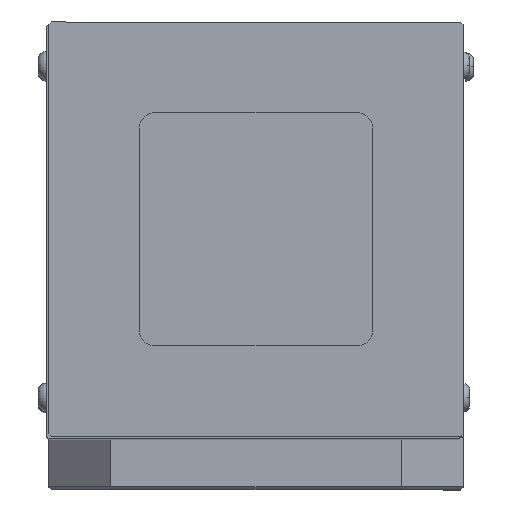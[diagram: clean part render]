
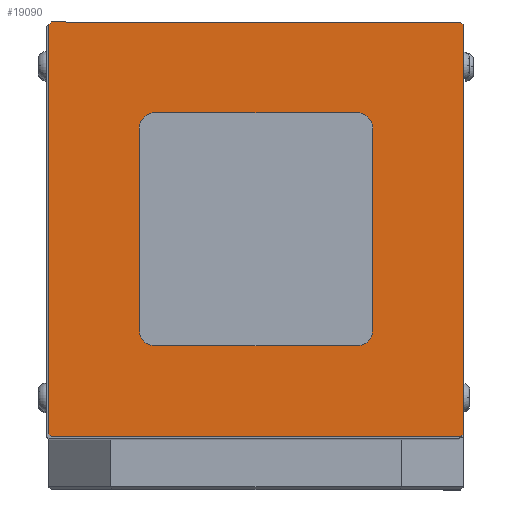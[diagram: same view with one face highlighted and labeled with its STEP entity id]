
A CAD part, top view. The second image highlights one B-rep face of the part: STEP entity #19090.
In plain terms, the highlighted planar face has unit normal (0, 0, 1).
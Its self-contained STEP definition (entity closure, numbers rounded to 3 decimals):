
#19022 = EDGE_CURVE ( 'NONE', #19106, #19023, #32805, .T. ) ;
#19023 = VERTEX_POINT ( 'NONE', #32801 ) ;
#19029 = EDGE_CURVE ( 'NONE', #19030, #19031, #32834, .T. ) ;
#19030 = VERTEX_POINT ( 'NONE', #32830 ) ;
#19031 = VERTEX_POINT ( 'NONE', #32829 ) ;
#19066 = ORIENTED_EDGE ( 'NONE', *, *, #19067, .T. ) ;
#19067 = EDGE_CURVE ( 'NONE', #19150, #19068, #32895, .T. ) ;
#19068 = VERTEX_POINT ( 'NONE', #32890 ) ;
#19069 = ORIENTED_EDGE ( 'NONE', *, *, #19070, .T. ) ;
#19070 = EDGE_CURVE ( 'NONE', #19068, #19071, #32889, .T. ) ;
#19071 = VERTEX_POINT ( 'NONE', #32885 ) ;
#19072 = ORIENTED_EDGE ( 'NONE', *, *, #19073, .T. ) ;
#19073 = EDGE_CURVE ( 'NONE', #19071, #19074, #32884, .T. ) ;
#19074 = VERTEX_POINT ( 'NONE', #32879 ) ;
#19075 = ORIENTED_EDGE ( 'NONE', *, *, #19076, .T. ) ;
#19076 = EDGE_CURVE ( 'NONE', #19074, #19135, #32877, .T. ) ;
#19082 = EDGE_CURVE ( 'NONE', #19083, #19084, #32909, .T. ) ;
#19083 = VERTEX_POINT ( 'NONE', #32964 ) ;
#19084 = VERTEX_POINT ( 'NONE', #32963 ) ;
#19090 = ADVANCED_FACE ( 'NONE', ( #32953, #32952 ), #32993, .T. ) ;
#19091 = EDGE_LOOP ( 'NONE', ( #19148, #19066, #19069, #19072, #19075, #19136, #19139, #19142 ) ) ;
#19092 = VERTEX_POINT ( 'NONE', #32988 ) ;
#19099 = EDGE_CURVE ( 'NONE', #19100, #19101, #33023, .T. ) ;
#19100 = VERTEX_POINT ( 'NONE', #33019 ) ;
#19101 = VERTEX_POINT ( 'NONE', #33018 ) ;
#19106 = VERTEX_POINT ( 'NONE', #33009 ) ;
#19123 = ORIENTED_EDGE ( 'NONE', *, *, #19082, .F. ) ;
#19124 = ORIENTED_EDGE ( 'NONE', *, *, #19125, .T. ) ;
#19125 = EDGE_CURVE ( 'NONE', #19083, #19101, #33029, .T. ) ;
#19126 = ORIENTED_EDGE ( 'NONE', *, *, #19099, .F. ) ;
#19127 = ORIENTED_EDGE ( 'NONE', *, *, #19128, .T. ) ;
#19128 = EDGE_CURVE ( 'NONE', #19100, #19031, #33078, .T. ) ;
#19129 = ORIENTED_EDGE ( 'NONE', *, *, #19029, .F. ) ;
#19130 = ORIENTED_EDGE ( 'NONE', *, *, #19131, .T. ) ;
#19131 = EDGE_CURVE ( 'NONE', #19030, #19023, #33073, .T. ) ;
#19135 = VERTEX_POINT ( 'NONE', #33108 ) ;
#19136 = ORIENTED_EDGE ( 'NONE', *, *, #19137, .T. ) ;
#19137 = EDGE_CURVE ( 'NONE', #19135, #19138, #33107, .T. ) ;
#19138 = VERTEX_POINT ( 'NONE', #33102 ) ;
#19139 = ORIENTED_EDGE ( 'NONE', *, *, #19140, .T. ) ;
#19140 = EDGE_CURVE ( 'NONE', #19138, #19141, #33101, .T. ) ;
#19141 = VERTEX_POINT ( 'NONE', #33097 ) ;
#19142 = ORIENTED_EDGE ( 'NONE', *, *, #19143, .T. ) ;
#19143 = EDGE_CURVE ( 'NONE', #19141, #19092, #33096, .T. ) ;
#19144 = EDGE_LOOP ( 'NONE', ( #19145, #19146, #19123, #19124, #19126, #19127, #19129, #19130 ) ) ;
#19145 = ORIENTED_EDGE ( 'NONE', *, *, #19022, .F. ) ;
#19146 = ORIENTED_EDGE ( 'NONE', *, *, #19147, .T. ) ;
#19147 = EDGE_CURVE ( 'NONE', #19106, #19084, #33091, .T. ) ;
#19148 = ORIENTED_EDGE ( 'NONE', *, *, #19149, .T. ) ;
#19149 = EDGE_CURVE ( 'NONE', #19092, #19150, #33087, .T. ) ;
#19150 = VERTEX_POINT ( 'NONE', #33083 ) ;
#32801 = CARTESIAN_POINT ( 'NONE',  ( -40.4, 39.1, 70. ) ) ;
#32802 = DIRECTION ( 'NONE',  ( 0., 1., 0. ) ) ;
#32803 = VECTOR ( 'NONE', #32802, 1000. ) ;
#32804 = CARTESIAN_POINT ( 'NONE',  ( -40.4, 39.6, 70. ) ) ;
#32805 = LINE ( 'NONE', #32804, #32803 ) ;
#32829 = CARTESIAN_POINT ( 'NONE',  ( 39.1, 39.6, 70. ) ) ;
#32830 = CARTESIAN_POINT ( 'NONE',  ( -39.9, 39.6, 70. ) ) ;
#32831 = DIRECTION ( 'NONE',  ( 1., 0., 0. ) ) ;
#32832 = VECTOR ( 'NONE', #32831, 1000. ) ;
#32833 = CARTESIAN_POINT ( 'NONE',  ( -40.4, 39.6, 70. ) ) ;
#32834 = LINE ( 'NONE', #32833, #32832 ) ;
#32874 = DIRECTION ( 'NONE',  ( -1., 0., 0. ) ) ;
#32875 = VECTOR ( 'NONE', #32874, 1000. ) ;
#32876 = CARTESIAN_POINT ( 'NONE',  ( 22.1, -22.9, 70. ) ) ;
#32877 = LINE ( 'NONE', #32876, #32875 ) ;
#32879 = CARTESIAN_POINT ( 'NONE',  ( 19.1, -22.9, 70. ) ) ;
#32880 = DIRECTION ( 'NONE',  ( 0., -1., 0. ) ) ;
#32881 = DIRECTION ( 'NONE',  ( 0., 0., -1. ) ) ;
#32882 = CARTESIAN_POINT ( 'NONE',  ( 19.1, -19.9, 70. ) ) ;
#32883 = AXIS2_PLACEMENT_3D ( 'NONE', #32882, #32881, #32880 ) ;
#32884 = CIRCLE ( 'NONE', #32883, 3. ) ;
#32885 = CARTESIAN_POINT ( 'NONE',  ( 22.1, -19.9, 70. ) ) ;
#32886 = DIRECTION ( 'NONE',  ( 0., -1., 0. ) ) ;
#32887 = VECTOR ( 'NONE', #32886, 1000. ) ;
#32888 = CARTESIAN_POINT ( 'NONE',  ( 22.1, -22.9, 70. ) ) ;
#32889 = LINE ( 'NONE', #32888, #32887 ) ;
#32890 = CARTESIAN_POINT ( 'NONE',  ( 22.1, 19.1, 70. ) ) ;
#32891 = DIRECTION ( 'NONE',  ( 0., -1., 0. ) ) ;
#32892 = DIRECTION ( 'NONE',  ( 0., 0., -1. ) ) ;
#32893 = CARTESIAN_POINT ( 'NONE',  ( 19.1, 19.1, 70. ) ) ;
#32894 = AXIS2_PLACEMENT_3D ( 'NONE', #32893, #32892, #32891 ) ;
#32895 = CIRCLE ( 'NONE', #32894, 3. ) ;
#32906 = DIRECTION ( 'NONE',  ( -1., 0., 0. ) ) ;
#32907 = VECTOR ( 'NONE', #32906, 1000. ) ;
#32908 = CARTESIAN_POINT ( 'NONE',  ( -40.4, -40.4, 70. ) ) ;
#32909 = LINE ( 'NONE', #32908, #32907 ) ;
#32952 = FACE_OUTER_BOUND ( 'NONE', #19144, .T. ) ;
#32953 = FACE_BOUND ( 'NONE', #19091, .T. ) ;
#32963 = CARTESIAN_POINT ( 'NONE',  ( -39.9, -40.4, 70. ) ) ;
#32964 = CARTESIAN_POINT ( 'NONE',  ( 39.1, -40.4, 70. ) ) ;
#32988 = CARTESIAN_POINT ( 'NONE',  ( -19.9, 22.1, 70. ) ) ;
#32989 = DIRECTION ( 'NONE',  ( 0., -1., 0. ) ) ;
#32990 = DIRECTION ( 'NONE',  ( 0., 0., 1. ) ) ;
#32991 = CARTESIAN_POINT ( 'NONE',  ( -40.4, -40.4, 70. ) ) ;
#32992 = AXIS2_PLACEMENT_3D ( 'NONE', #32991, #32990, #32989 ) ;
#32993 = PLANE ( 'NONE',  #32992 ) ;
#33009 = CARTESIAN_POINT ( 'NONE',  ( -40.4, -39.9, 70. ) ) ;
#33018 = CARTESIAN_POINT ( 'NONE',  ( 39.6, -39.9, 70. ) ) ;
#33019 = CARTESIAN_POINT ( 'NONE',  ( 39.6, 39.1, 70. ) ) ;
#33020 = DIRECTION ( 'NONE',  ( 0., -1., 0. ) ) ;
#33021 = VECTOR ( 'NONE', #33020, 1000. ) ;
#33022 = CARTESIAN_POINT ( 'NONE',  ( 39.6, 39.6, 70. ) ) ;
#33023 = LINE ( 'NONE', #33022, #33021 ) ;
#33026 = DIRECTION ( 'NONE',  ( 0.707, 0.707, 0. ) ) ;
#33027 = VECTOR ( 'NONE', #33026, 1000. ) ;
#33028 = CARTESIAN_POINT ( 'NONE',  ( -0.65, -80.15, 70. ) ) ;
#33029 = LINE ( 'NONE', #33028, #33027 ) ;
#33070 = DIRECTION ( 'NONE',  ( -0.707, -0.707, 0. ) ) ;
#33071 = VECTOR ( 'NONE', #33070, 1000. ) ;
#33072 = CARTESIAN_POINT ( 'NONE',  ( -80.15, -0.65, 70. ) ) ;
#33073 = LINE ( 'NONE', #33072, #33071 ) ;
#33075 = DIRECTION ( 'NONE',  ( -0.707, 0.707, 0. ) ) ;
#33076 = VECTOR ( 'NONE', #33075, 1000. ) ;
#33077 = CARTESIAN_POINT ( 'NONE',  ( 39.35, 39.35, 70. ) ) ;
#33078 = LINE ( 'NONE', #33077, #33076 ) ;
#33083 = CARTESIAN_POINT ( 'NONE',  ( 19.1, 22.1, 70. ) ) ;
#33084 = DIRECTION ( 'NONE',  ( 1., 0., 0. ) ) ;
#33085 = VECTOR ( 'NONE', #33084, 1000. ) ;
#33086 = CARTESIAN_POINT ( 'NONE',  ( 22.1, 22.1, 70. ) ) ;
#33087 = LINE ( 'NONE', #33086, #33085 ) ;
#33088 = DIRECTION ( 'NONE',  ( 0.707, -0.707, 0. ) ) ;
#33089 = VECTOR ( 'NONE', #33088, 1000. ) ;
#33090 = CARTESIAN_POINT ( 'NONE',  ( -40.15, -40.15, 70. ) ) ;
#33091 = LINE ( 'NONE', #33090, #33089 ) ;
#33092 = DIRECTION ( 'NONE',  ( 0., -1., 0. ) ) ;
#33093 = DIRECTION ( 'NONE',  ( 0., 0., -1. ) ) ;
#33094 = CARTESIAN_POINT ( 'NONE',  ( -19.9, 19.1, 70. ) ) ;
#33095 = AXIS2_PLACEMENT_3D ( 'NONE', #33094, #33093, #33092 ) ;
#33096 = CIRCLE ( 'NONE', #33095, 3. ) ;
#33097 = CARTESIAN_POINT ( 'NONE',  ( -22.9, 19.1, 70. ) ) ;
#33098 = DIRECTION ( 'NONE',  ( 0., 1., 0. ) ) ;
#33099 = VECTOR ( 'NONE', #33098, 1000. ) ;
#33100 = CARTESIAN_POINT ( 'NONE',  ( -22.9, -22.9, 70. ) ) ;
#33101 = LINE ( 'NONE', #33100, #33099 ) ;
#33102 = CARTESIAN_POINT ( 'NONE',  ( -22.9, -19.9, 70. ) ) ;
#33103 = DIRECTION ( 'NONE',  ( 0., -1., 0. ) ) ;
#33104 = DIRECTION ( 'NONE',  ( 0., 0., -1. ) ) ;
#33105 = CARTESIAN_POINT ( 'NONE',  ( -19.9, -19.9, 70. ) ) ;
#33106 = AXIS2_PLACEMENT_3D ( 'NONE', #33105, #33104, #33103 ) ;
#33107 = CIRCLE ( 'NONE', #33106, 3. ) ;
#33108 = CARTESIAN_POINT ( 'NONE',  ( -19.9, -22.9, 70. ) ) ;
